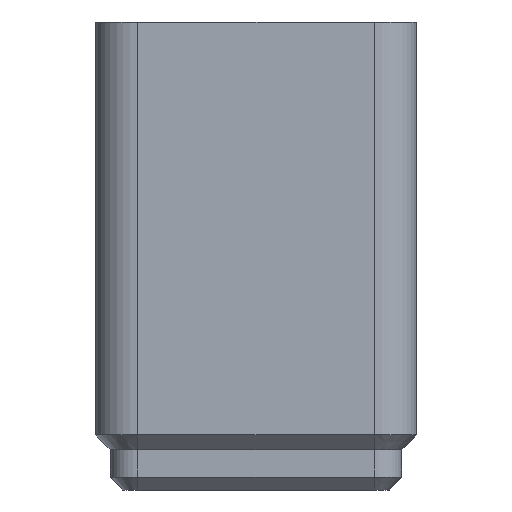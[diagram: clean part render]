
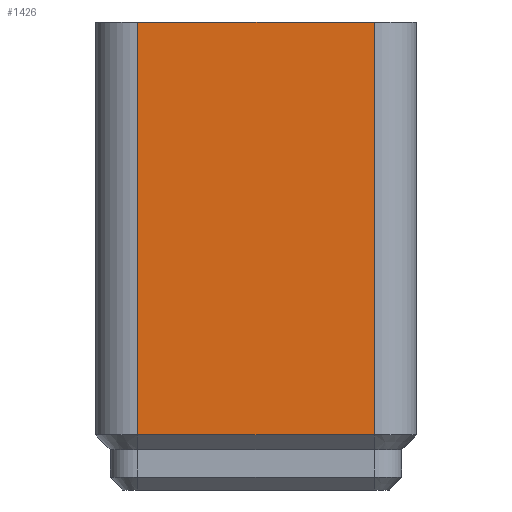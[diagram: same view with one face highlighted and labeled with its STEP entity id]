
A CAD part, front view. The second image highlights one B-rep face of the part: STEP entity #1426.
In plain terms, the highlighted planar face has unit normal (0, -1, 0).
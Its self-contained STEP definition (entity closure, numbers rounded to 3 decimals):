
#45 = EDGE_CURVE ( 'NONE', #855, #634, #739, .T. ) ;
#65 = FACE_OUTER_BOUND ( 'NONE', #2008, .T. ) ;
#221 = DIRECTION ( 'NONE',  ( 1., 0., 0. ) ) ;
#274 = VECTOR ( 'NONE', #2469, 1000. ) ;
#294 = VECTOR ( 'NONE', #1480, 1000. ) ;
#310 = LINE ( 'NONE', #1496, #274 ) ;
#316 = CARTESIAN_POINT ( 'NONE',  ( -6.45, -47.75, 25.5 ) ) ;
#634 = VERTEX_POINT ( 'NONE', #1142 ) ;
#684 = CARTESIAN_POINT ( 'NONE',  ( 6.45, -47.75, 25.5 ) ) ;
#695 = LINE ( 'NONE', #1672, #294 ) ;
#739 = LINE ( 'NONE', #1548, #986 ) ;
#824 = EDGE_CURVE ( 'NONE', #634, #1892, #1408, .T. ) ;
#855 = VERTEX_POINT ( 'NONE', #1697 ) ;
#986 = VECTOR ( 'NONE', #1689, 1000. ) ;
#994 = VECTOR ( 'NONE', #221, 1000. ) ;
#999 = AXIS2_PLACEMENT_3D ( 'NONE', #316, #1703, #1078 ) ;
#1028 = VERTEX_POINT ( 'NONE', #684 ) ;
#1066 = ORIENTED_EDGE ( 'NONE', *, *, #45, .T. ) ;
#1078 = DIRECTION ( 'NONE',  ( 0., 0., 1. ) ) ;
#1142 = CARTESIAN_POINT ( 'NONE',  ( -6.45, -47.75, 3. ) ) ;
#1408 = LINE ( 'NONE', #1989, #994 ) ;
#1426 = ADVANCED_FACE ( 'NONE', ( #65 ), #2503, .F. ) ;
#1455 = ORIENTED_EDGE ( 'NONE', *, *, #1783, .F. ) ;
#1463 = EDGE_CURVE ( 'NONE', #1028, #1892, #695, .T. ) ;
#1480 = DIRECTION ( 'NONE',  ( 0., 0., -1. ) ) ;
#1496 = CARTESIAN_POINT ( 'NONE',  ( -6.45, -47.75, 25.5 ) ) ;
#1548 = CARTESIAN_POINT ( 'NONE',  ( -6.45, -47.75, 25.5 ) ) ;
#1672 = CARTESIAN_POINT ( 'NONE',  ( 6.45, -47.75, 25.5 ) ) ;
#1689 = DIRECTION ( 'NONE',  ( 0., 0., -1. ) ) ;
#1694 = CARTESIAN_POINT ( 'NONE',  ( 6.45, -47.75, 3. ) ) ;
#1697 = CARTESIAN_POINT ( 'NONE',  ( -6.45, -47.75, 25.5 ) ) ;
#1703 = DIRECTION ( 'NONE',  ( 0., 1., 0. ) ) ;
#1783 = EDGE_CURVE ( 'NONE', #855, #1028, #310, .T. ) ;
#1844 = ORIENTED_EDGE ( 'NONE', *, *, #1463, .F. ) ;
#1892 = VERTEX_POINT ( 'NONE', #1694 ) ;
#1989 = CARTESIAN_POINT ( 'NONE',  ( -6.45, -47.75, 3. ) ) ;
#2008 = EDGE_LOOP ( 'NONE', ( #2235, #1844, #1455, #1066 ) ) ;
#2235 = ORIENTED_EDGE ( 'NONE', *, *, #824, .T. ) ;
#2469 = DIRECTION ( 'NONE',  ( 1., 0., 0. ) ) ;
#2503 = PLANE ( 'NONE',  #999 ) ;
